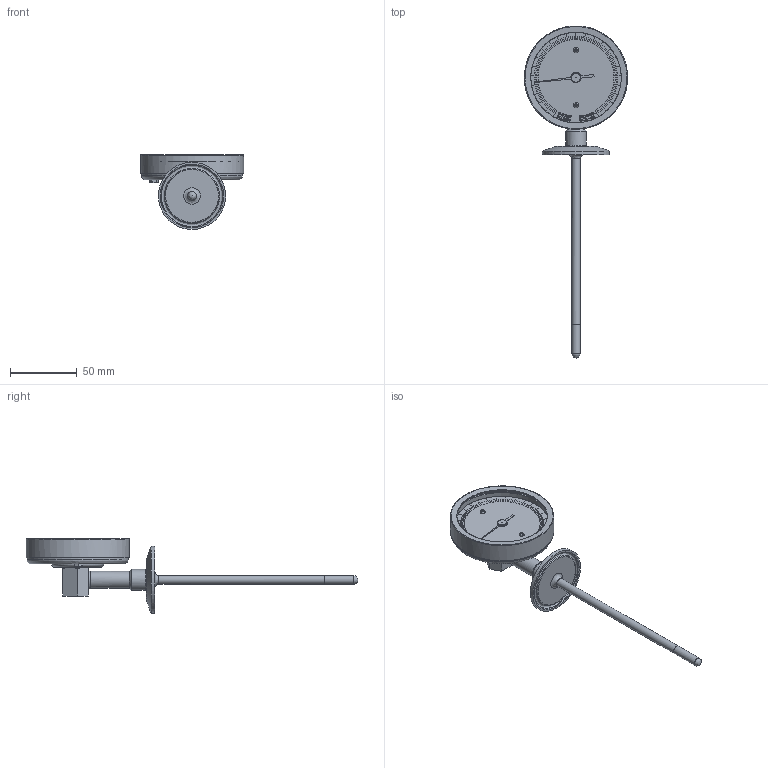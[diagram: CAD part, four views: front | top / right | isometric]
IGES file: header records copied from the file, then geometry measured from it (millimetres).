
Global section: file name: XR-1in-SANITARY-IGS; native system: Autodesk Inventor 2014; preprocessor: unknown; author: Charles; date: 20151109.113856; units: inch
Bounding box: 77.46 x 249.14 x 56.18 mm (x, y, z)
Volume: 56603.9 mm3; surface area: 53466.9 mm2
Topology: 26 solids, 27 shells, 1480 faces, 4271 edges, 2859 vertices
Faces by surface type: bspline 1480
